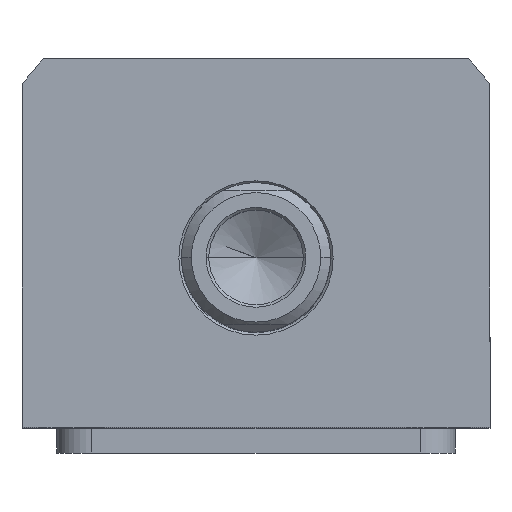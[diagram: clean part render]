
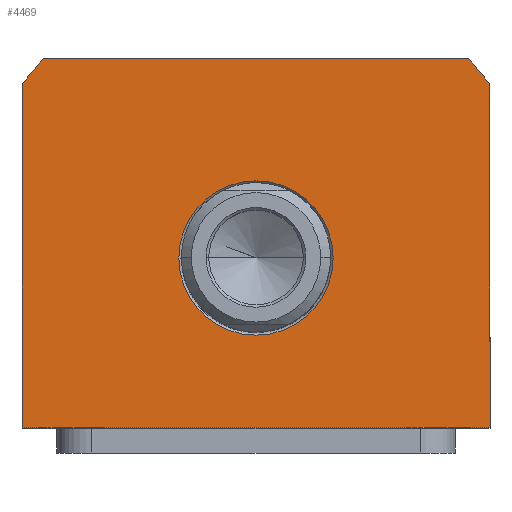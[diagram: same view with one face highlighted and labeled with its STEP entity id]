
A CAD part, top view. The second image highlights one B-rep face of the part: STEP entity #4469.
In plain terms, the highlighted planar face has unit normal (0, 0, 1).
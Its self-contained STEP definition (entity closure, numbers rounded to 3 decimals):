
#206 = EDGE_CURVE ( 'NONE', #641, #9173, #10038, .T. ) ;
#222 = CARTESIAN_POINT ( 'NONE',  ( 47., 34.832, 70. ) ) ;
#223 = FACE_BOUND ( 'NONE', #1651, .T. ) ;
#498 = DIRECTION ( 'NONE',  ( 0., 0., 1. ) ) ;
#619 = CARTESIAN_POINT ( 'NONE',  ( 47., -34., 70. ) ) ;
#641 = VERTEX_POINT ( 'NONE', #2688 ) ;
#708 = CIRCLE ( 'NONE', #11568, 15.5 ) ;
#907 = VERTEX_POINT ( 'NONE', #222 ) ;
#910 = DIRECTION ( 'NONE',  ( 0., -1., 0. ) ) ;
#1651 = EDGE_LOOP ( 'NONE', ( #8323, #6881 ) ) ;
#1916 = VECTOR ( 'NONE', #910, 1000. ) ;
#2038 = EDGE_CURVE ( 'NONE', #907, #11120, #3460, .T. ) ;
#2077 = EDGE_CURVE ( 'NONE', #11887, #641, #2739, .T. ) ;
#2131 = EDGE_CURVE ( 'NONE', #3890, #6113, #10145, .T. ) ;
#2167 = VERTEX_POINT ( 'NONE', #619 ) ;
#2181 = DIRECTION ( 'NONE',  ( -1., 0., 0. ) ) ;
#2369 = ORIENTED_EDGE ( 'NONE', *, *, #2038, .T. ) ;
#2373 = LINE ( 'NONE', #8474, #8950 ) ;
#2467 = EDGE_CURVE ( 'NONE', #6113, #3890, #708, .T. ) ;
#2515 = ORIENTED_EDGE ( 'NONE', *, *, #206, .T. ) ;
#2549 = CARTESIAN_POINT ( 'NONE',  ( 47., 34.832, 70. ) ) ;
#2688 = CARTESIAN_POINT ( 'NONE',  ( -47., 34.832, 70. ) ) ;
#2695 = ORIENTED_EDGE ( 'NONE', *, *, #3419, .T. ) ;
#2739 = CIRCLE ( 'NONE', #7660, 58.5 ) ;
#2804 = VECTOR ( 'NONE', #10926, 1000. ) ;
#2948 = CARTESIAN_POINT ( 'NONE',  ( 0., 0., 70. ) ) ;
#3281 = VECTOR ( 'NONE', #7091, 1000. ) ;
#3419 = EDGE_CURVE ( 'NONE', #11120, #11887, #2373, .T. ) ;
#3460 = CIRCLE ( 'NONE', #6656, 58.5 ) ;
#3566 = FACE_OUTER_BOUND ( 'NONE', #10480, .T. ) ;
#3890 = VERTEX_POINT ( 'NONE', #4386 ) ;
#4165 = CARTESIAN_POINT ( 'NONE',  ( 0., 0., 70. ) ) ;
#4211 = CARTESIAN_POINT ( 'NONE',  ( 0., 0., 70. ) ) ;
#4290 = LINE ( 'NONE', #6199, #3281 ) ;
#4386 = CARTESIAN_POINT ( 'NONE',  ( -15.5, 0., 70. ) ) ;
#4469 = ADVANCED_FACE ( 'NONE', ( #223, #3566 ), #7834, .T. ) ;
#4998 = DIRECTION ( 'NONE',  ( 0., 0., -1. ) ) ;
#5049 = CARTESIAN_POINT ( 'NONE',  ( 15.5, 0., 70. ) ) ;
#5512 = ORIENTED_EDGE ( 'NONE', *, *, #10342, .T. ) ;
#5599 = DIRECTION ( 'NONE',  ( 0., 0., -1. ) ) ;
#6030 = CARTESIAN_POINT ( 'NONE',  ( -42.688, 40., 70. ) ) ;
#6113 = VERTEX_POINT ( 'NONE', #5049 ) ;
#6199 = CARTESIAN_POINT ( 'NONE',  ( 47., -34., 70. ) ) ;
#6424 = CARTESIAN_POINT ( 'NONE',  ( -47., -34., 70. ) ) ;
#6656 = AXIS2_PLACEMENT_3D ( 'NONE', #4211, #10485, #11333 ) ;
#6881 = ORIENTED_EDGE ( 'NONE', *, *, #2131, .T. ) ;
#6917 = DIRECTION ( 'NONE',  ( 0., 0., 1. ) ) ;
#7091 = DIRECTION ( 'NONE',  ( 1., 0., 0. ) ) ;
#7170 = ORIENTED_EDGE ( 'NONE', *, *, #11036, .T. ) ;
#7660 = AXIS2_PLACEMENT_3D ( 'NONE', #4165, #6917, #7790 ) ;
#7730 = AXIS2_PLACEMENT_3D ( 'NONE', #9520, #4998, #10785 ) ;
#7757 = ORIENTED_EDGE ( 'NONE', *, *, #2077, .T. ) ;
#7790 = DIRECTION ( 'NONE',  ( 1., 0., 0. ) ) ;
#7793 = CARTESIAN_POINT ( 'NONE',  ( 0., 0., 70. ) ) ;
#7834 = PLANE ( 'NONE',  #8385 ) ;
#8323 = ORIENTED_EDGE ( 'NONE', *, *, #2467, .T. ) ;
#8385 = AXIS2_PLACEMENT_3D ( 'NONE', #7793, #498, #8743 ) ;
#8474 = CARTESIAN_POINT ( 'NONE',  ( -42.688, 40., 70. ) ) ;
#8743 = DIRECTION ( 'NONE',  ( 1., 0., 0. ) ) ;
#8931 = LINE ( 'NONE', #2549, #2804 ) ;
#8950 = VECTOR ( 'NONE', #2181, 1000. ) ;
#9173 = VERTEX_POINT ( 'NONE', #11679 ) ;
#9520 = CARTESIAN_POINT ( 'NONE',  ( 0., 0., 70. ) ) ;
#9779 = CARTESIAN_POINT ( 'NONE',  ( 42.688, 40., 70. ) ) ;
#10038 = LINE ( 'NONE', #6424, #1916 ) ;
#10145 = CIRCLE ( 'NONE', #7730, 15.5 ) ;
#10342 = EDGE_CURVE ( 'NONE', #9173, #2167, #4290, .T. ) ;
#10480 = EDGE_LOOP ( 'NONE', ( #5512, #7170, #2369, #2695, #7757, #2515 ) ) ;
#10485 = DIRECTION ( 'NONE',  ( 0., 0., 1. ) ) ;
#10785 = DIRECTION ( 'NONE',  ( 1., 0., 0. ) ) ;
#10926 = DIRECTION ( 'NONE',  ( 0., 1., 0. ) ) ;
#11024 = DIRECTION ( 'NONE',  ( 1., 0., 0. ) ) ;
#11036 = EDGE_CURVE ( 'NONE', #2167, #907, #8931, .T. ) ;
#11120 = VERTEX_POINT ( 'NONE', #9779 ) ;
#11333 = DIRECTION ( 'NONE',  ( 1., 0., 0. ) ) ;
#11568 = AXIS2_PLACEMENT_3D ( 'NONE', #2948, #5599, #11024 ) ;
#11679 = CARTESIAN_POINT ( 'NONE',  ( -47., -34., 70. ) ) ;
#11887 = VERTEX_POINT ( 'NONE', #6030 ) ;
